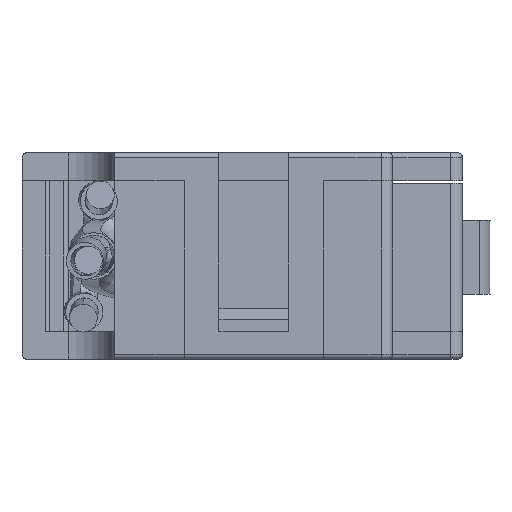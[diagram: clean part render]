
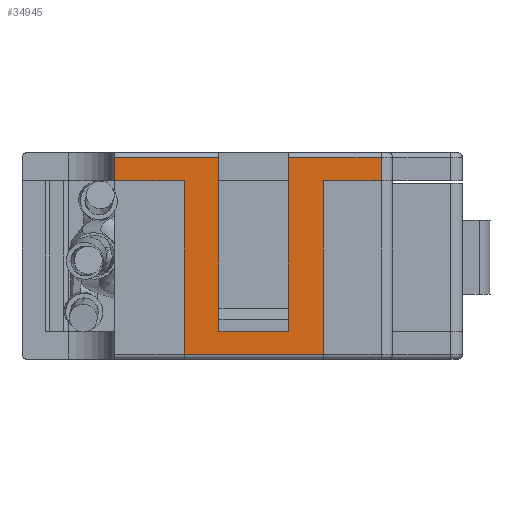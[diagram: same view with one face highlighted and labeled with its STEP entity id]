
A CAD part, left-side view. The second image highlights one B-rep face of the part: STEP entity #34945.
In plain terms, the highlighted planar face has unit normal (-1, 0, 0).
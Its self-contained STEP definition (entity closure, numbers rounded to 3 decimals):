
#381 = VERTEX_POINT ( 'NONE', #34506 ) ;
#625 = CARTESIAN_POINT ( 'NONE',  ( -36.636, -4.611, 7.7 ) ) ;
#1727 = LINE ( 'NONE', #27947, #26279 ) ;
#2065 = VECTOR ( 'NONE', #18361, 1000. ) ;
#2300 = DIRECTION ( 'NONE',  ( 1., 0., 0. ) ) ;
#2793 = ORIENTED_EDGE ( 'NONE', *, *, #37904, .T. ) ;
#4584 = DIRECTION ( 'NONE',  ( 0., 0., 1. ) ) ;
#5091 = VECTOR ( 'NONE', #26470, 1000. ) ;
#6095 = ORIENTED_EDGE ( 'NONE', *, *, #13575, .F. ) ;
#7270 = EDGE_CURVE ( 'NONE', #39464, #29493, #38273, .T. ) ;
#8236 = CARTESIAN_POINT ( 'NONE',  ( -36.636, 3.889, -1. ) ) ;
#9823 = DIRECTION ( 'NONE',  ( 0., -1., 0. ) ) ;
#11132 = VECTOR ( 'NONE', #47411, 1000. ) ;
#11392 = CARTESIAN_POINT ( 'NONE',  ( -36.636, 3.889, -1.2 ) ) ;
#12404 = EDGE_CURVE ( 'NONE', #41168, #30043, #1727, .T. ) ;
#12686 = LINE ( 'NONE', #40503, #31515 ) ;
#13339 = CARTESIAN_POINT ( 'NONE',  ( -36.636, 2.389, 7.5 ) ) ;
#13575 = EDGE_CURVE ( 'NONE', #41168, #44554, #19087, .T. ) ;
#13777 = LINE ( 'NONE', #47164, #29052 ) ;
#14278 = VERTEX_POINT ( 'NONE', #22735 ) ;
#14648 = EDGE_CURVE ( 'NONE', #44554, #26009, #15075, .T. ) ;
#14770 = LINE ( 'NONE', #42614, #11132 ) ;
#14906 = EDGE_CURVE ( 'NONE', #29493, #31003, #23163, .T. ) ;
#15075 = LINE ( 'NONE', #32542, #21510 ) ;
#16001 = ORIENTED_EDGE ( 'NONE', *, *, #12404, .T. ) ;
#16816 = LINE ( 'NONE', #18411, #29851 ) ;
#16824 = ORIENTED_EDGE ( 'NONE', *, *, #14648, .F. ) ;
#16912 = VECTOR ( 'NONE', #4584, 1000. ) ;
#17413 = DIRECTION ( 'NONE',  ( 0., 0., -1. ) ) ;
#18361 = DIRECTION ( 'NONE',  ( 0., 0., 1. ) ) ;
#18411 = CARTESIAN_POINT ( 'NONE',  ( -36.636, 6.889, 6.5 ) ) ;
#19087 = LINE ( 'NONE', #30241, #41965 ) ;
#20647 = CARTESIAN_POINT ( 'NONE',  ( -36.636, 6.889, 7.7 ) ) ;
#20778 = DIRECTION ( 'NONE',  ( 0., 1., 0. ) ) ;
#20972 = EDGE_CURVE ( 'NONE', #30043, #39247, #33387, .T. ) ;
#21276 = EDGE_CURVE ( 'NONE', #31003, #14278, #16816, .T. ) ;
#21510 = VECTOR ( 'NONE', #37328, 1000. ) ;
#21582 = DIRECTION ( 'NONE',  ( 0., -1., 0. ) ) ;
#22042 = LINE ( 'NONE', #625, #16912 ) ;
#22491 = CARTESIAN_POINT ( 'NONE',  ( -36.636, -0.611, 0. ) ) ;
#22561 = ORIENTED_EDGE ( 'NONE', *, *, #40204, .T. ) ;
#22735 = CARTESIAN_POINT ( 'NONE',  ( -36.636, -4.611, 6.5 ) ) ;
#22934 = CARTESIAN_POINT ( 'NONE',  ( -36.636, 6.889, 7.7 ) ) ;
#23163 = LINE ( 'NONE', #24708, #2065 ) ;
#23206 = CARTESIAN_POINT ( 'NONE',  ( -36.636, 6.889, 6.5 ) ) ;
#23507 = CARTESIAN_POINT ( 'NONE',  ( -36.636, -4.611, 7.5 ) ) ;
#23594 = VERTEX_POINT ( 'NONE', #42721 ) ;
#24060 = VECTOR ( 'NONE', #29369, 1000. ) ;
#24708 = CARTESIAN_POINT ( 'NONE',  ( -36.636, -2.111, -1.2 ) ) ;
#25655 = AXIS2_PLACEMENT_3D ( 'NONE', #22934, #2300, #17413 ) ;
#26009 = VERTEX_POINT ( 'NONE', #22491 ) ;
#26279 = VECTOR ( 'NONE', #20778, 1000. ) ;
#26470 = DIRECTION ( 'NONE',  ( 0., 0., 1. ) ) ;
#26760 = VECTOR ( 'NONE', #35069, 1000. ) ;
#27947 = CARTESIAN_POINT ( 'NONE',  ( -36.636, 6.889, 7.5 ) ) ;
#27999 = CARTESIAN_POINT ( 'NONE',  ( -36.636, 2.389, 0. ) ) ;
#28229 = ORIENTED_EDGE ( 'NONE', *, *, #31783, .F. ) ;
#29052 = VECTOR ( 'NONE', #9823, 1000. ) ;
#29369 = DIRECTION ( 'NONE',  ( 0., 0., -1. ) ) ;
#29493 = VERTEX_POINT ( 'NONE', #48231 ) ;
#29796 = ORIENTED_EDGE ( 'NONE', *, *, #14906, .T. ) ;
#29851 = VECTOR ( 'NONE', #21582, 1000. ) ;
#30043 = VERTEX_POINT ( 'NONE', #34575 ) ;
#30241 = CARTESIAN_POINT ( 'NONE',  ( -36.636, 2.389, 0. ) ) ;
#30765 = ORIENTED_EDGE ( 'NONE', *, *, #7270, .T. ) ;
#31003 = VERTEX_POINT ( 'NONE', #43166 ) ;
#31515 = VECTOR ( 'NONE', #31761, 1000. ) ;
#31761 = DIRECTION ( 'NONE',  ( 0., 1., 0. ) ) ;
#31783 = EDGE_CURVE ( 'NONE', #26009, #23594, #14770, .T. ) ;
#32542 = CARTESIAN_POINT ( 'NONE',  ( -36.636, 2.389, 0. ) ) ;
#33387 = LINE ( 'NONE', #20647, #24060 ) ;
#34506 = CARTESIAN_POINT ( 'NONE',  ( -36.636, 3.889, 6.5 ) ) ;
#34575 = CARTESIAN_POINT ( 'NONE',  ( -36.636, 6.889, 7.5 ) ) ;
#34945 = ADVANCED_FACE ( 'NONE', ( #38079 ), #35710, .F. ) ;
#35069 = DIRECTION ( 'NONE',  ( 0., -1., 0. ) ) ;
#35710 = PLANE ( 'NONE',  #25655 ) ;
#35797 = ORIENTED_EDGE ( 'NONE', *, *, #21276, .T. ) ;
#36872 = LINE ( 'NONE', #11392, #5091 ) ;
#36936 = EDGE_CURVE ( 'NONE', #39247, #381, #13777, .T. ) ;
#37328 = DIRECTION ( 'NONE',  ( 0., -1., 0. ) ) ;
#37904 = EDGE_CURVE ( 'NONE', #43895, #23594, #12686, .T. ) ;
#38079 = FACE_OUTER_BOUND ( 'NONE', #41164, .T. ) ;
#38273 = LINE ( 'NONE', #39046, #26760 ) ;
#39046 = CARTESIAN_POINT ( 'NONE',  ( -36.636, 6.889, -1. ) ) ;
#39247 = VERTEX_POINT ( 'NONE', #23206 ) ;
#39464 = VERTEX_POINT ( 'NONE', #8236 ) ;
#40204 = EDGE_CURVE ( 'NONE', #14278, #43895, #22042, .T. ) ;
#40503 = CARTESIAN_POINT ( 'NONE',  ( -36.636, -0.611, 7.5 ) ) ;
#40563 = DIRECTION ( 'NONE',  ( 0., 0., -1. ) ) ;
#40948 = ORIENTED_EDGE ( 'NONE', *, *, #36936, .T. ) ;
#41164 = EDGE_LOOP ( 'NONE', ( #6095, #16001, #45947, #40948, #44297, #30765, #29796, #35797, #22561, #2793, #28229, #16824 ) ) ;
#41168 = VERTEX_POINT ( 'NONE', #13339 ) ;
#41965 = VECTOR ( 'NONE', #40563, 1000. ) ;
#42614 = CARTESIAN_POINT ( 'NONE',  ( -36.636, -0.611, 0. ) ) ;
#42721 = CARTESIAN_POINT ( 'NONE',  ( -36.636, -0.611, 7.5 ) ) ;
#43166 = CARTESIAN_POINT ( 'NONE',  ( -36.636, -2.111, 6.5 ) ) ;
#43895 = VERTEX_POINT ( 'NONE', #23507 ) ;
#44297 = ORIENTED_EDGE ( 'NONE', *, *, #47899, .F. ) ;
#44554 = VERTEX_POINT ( 'NONE', #27999 ) ;
#45947 = ORIENTED_EDGE ( 'NONE', *, *, #20972, .T. ) ;
#47164 = CARTESIAN_POINT ( 'NONE',  ( -36.636, 6.889, 6.5 ) ) ;
#47411 = DIRECTION ( 'NONE',  ( 0., 0., 1. ) ) ;
#47899 = EDGE_CURVE ( 'NONE', #39464, #381, #36872, .T. ) ;
#48231 = CARTESIAN_POINT ( 'NONE',  ( -36.636, -2.111, -1. ) ) ;
